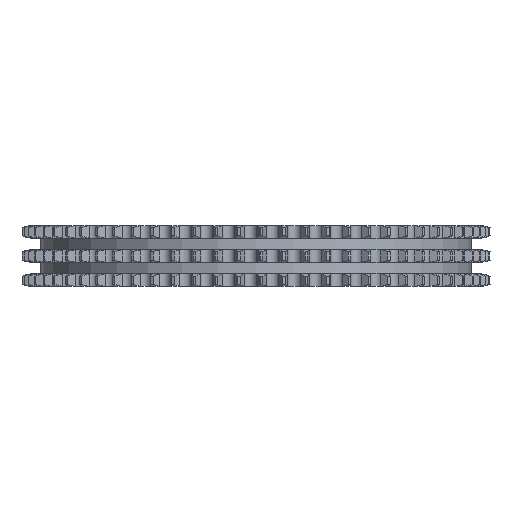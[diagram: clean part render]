
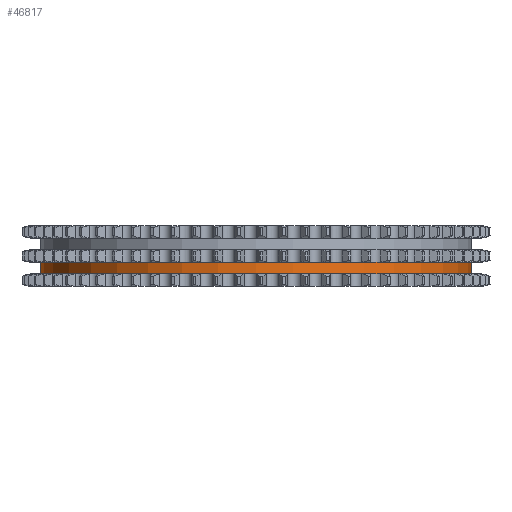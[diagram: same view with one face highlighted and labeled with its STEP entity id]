
A CAD part, left-side view. The second image highlights one B-rep face of the part: STEP entity #46817.
In plain terms, the highlighted cylindrical face has radius 123.434 mm (diameter 246.867 mm), a partial arc.
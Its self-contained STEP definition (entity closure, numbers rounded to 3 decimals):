
#8052=CARTESIAN_POINT('',(0.,0.,-10.25));
#8053=DIRECTION('',(0.,0.,1.));
#8054=DIRECTION('',(0.,1.,0.));
#8055=AXIS2_PLACEMENT_3D('',#8052,#8053,#8054);
#8580=DIRECTION('',(0.,0.,-1.));
#8581=VECTOR('',#8580,6.65);
#8582=CARTESIAN_POINT('',(0.,123.434,-3.6));
#8583=LINE('',#8582,#8581);
#8587=CARTESIAN_POINT('',(0.,0.,-3.6));
#8588=DIRECTION('',(0.,0.,1.));
#8589=DIRECTION('',(0.,1.,0.));
#8590=AXIS2_PLACEMENT_3D('',#8587,#8588,#8589);
#8595=DIRECTION('',(0.,0.,-1.));
#8596=VECTOR('',#8595,6.65);
#8597=CARTESIAN_POINT('',(0.,-123.434,-3.6));
#8598=LINE('',#8597,#8596);
#36890=CARTESIAN_POINT('',(0.,123.434,-3.6));
#36891=CARTESIAN_POINT('',(0.,123.434,-10.25));
#36892=VERTEX_POINT('',#36890);
#36893=VERTEX_POINT('',#36891);
#36894=CARTESIAN_POINT('',(0.,-123.434,-3.6));
#36895=CARTESIAN_POINT('',(0.,-123.434,-10.25));
#36896=VERTEX_POINT('',#36894);
#36897=VERTEX_POINT('',#36895);
#46803=CARTESIAN_POINT('',(0.,0.,11.275));
#46804=DIRECTION('',(0.,0.,-1.));
#46805=DIRECTION('',(0.,-1.,0.));
#46806=AXIS2_PLACEMENT_3D('',#46803,#46804,#46805);
#46807=CYLINDRICAL_SURFACE('',#46806,123.434);
#46809=ORIENTED_EDGE('',*,*,#46808,.F.);
#46811=ORIENTED_EDGE('',*,*,#46810,.T.);
#46813=ORIENTED_EDGE('',*,*,#46812,.T.);
#46814=ORIENTED_EDGE('',*,*,#46796,.F.);
#46815=EDGE_LOOP('',(#46809,#46811,#46813,#46814));
#46816=FACE_OUTER_BOUND('',#46815,.F.);
#46817=ADVANCED_FACE('',(#46816),#46807,.T.);
#8056=CIRCLE('',#8055,123.434);
#8591=CIRCLE('',#8590,123.434);
#46796=EDGE_CURVE('',#36893,#36897,#8056,.T.);
#46808=EDGE_CURVE('',#36892,#36893,#8583,.T.);
#46810=EDGE_CURVE('',#36892,#36896,#8591,.T.);
#46812=EDGE_CURVE('',#36896,#36897,#8598,.T.);
